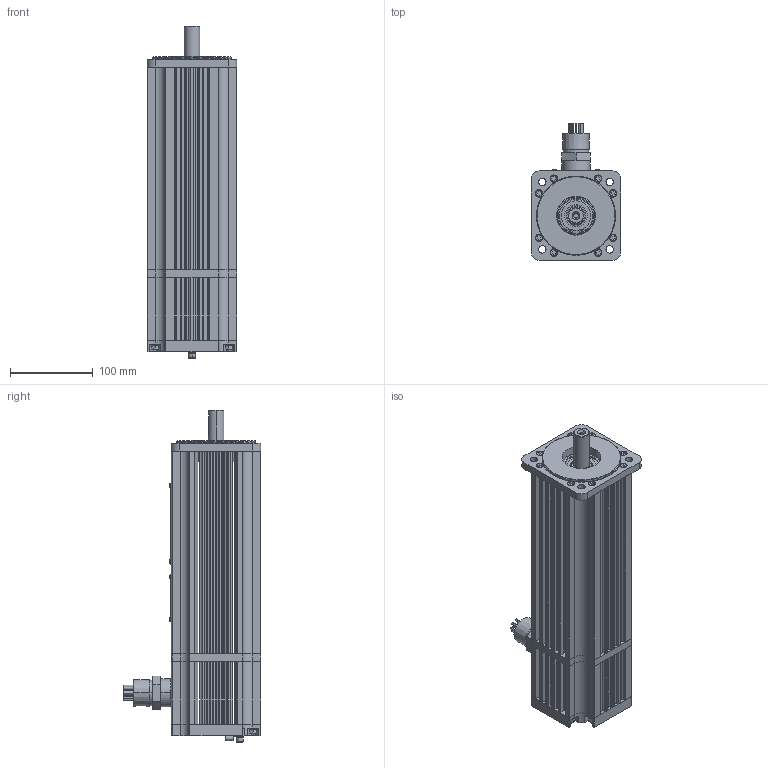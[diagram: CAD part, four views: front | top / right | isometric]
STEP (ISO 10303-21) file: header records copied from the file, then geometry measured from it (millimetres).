
FILE_DESCRIPTION (( 'STEP AP203' ), '1' );
FILE_NAME ('M443-ENN0-9T0Y-AL.STEP', '2009-03-13T19:15:19', ( 'New3' ), ( 'Elwood Corp.' ), 'SwSTEP 2.0', 'SolidWorks 2009', '' );
FILE_SCHEMA (( 'CONFIG_CONTROL_DESIGN' ));
Length unit declared in the file: inch
Products named in the file (1): M443-ENN0-9T0Y-AL
Bounding box: 108 x 166.17 x 400.66 mm (x, y, z)
Surface area: 264156.3 mm2 (no closed solid volume)
Topology: 0 solids, 69 shells, 1195 faces, 4801 edges, 3591 vertices
Faces by surface type: plane 659, cylinder 401, cone 71, bspline 47, torus 17
Entity records: 57750 total; most frequent: CARTESIAN_POINT 18773, DIRECTION 7713, ORIENTED_EDGE 7249, EDGE_CURVE 4801, VERTEX_POINT 3591, VECTOR 3185, LINE 3185, AXIS2_PLACEMENT_3D 2264
